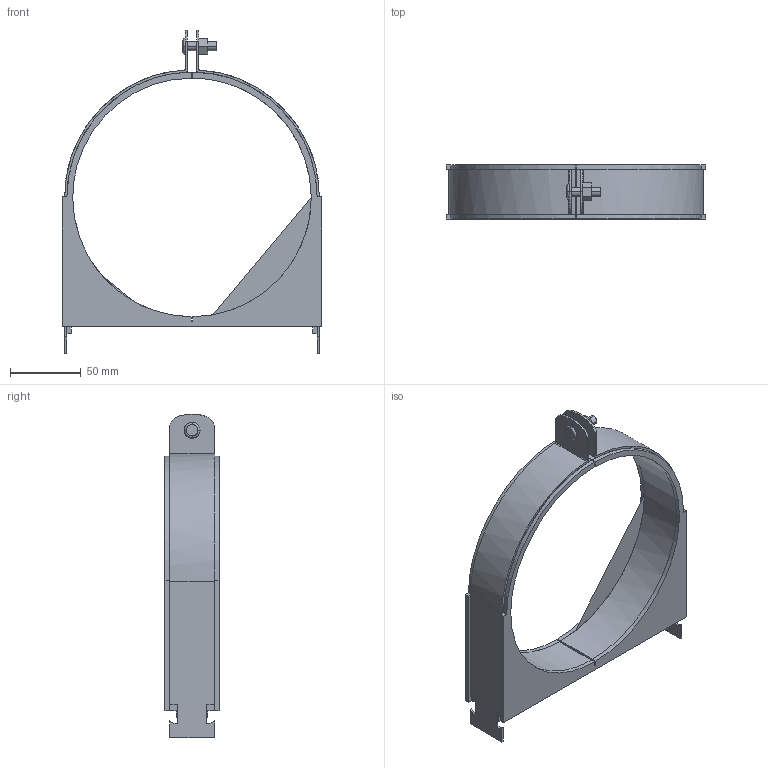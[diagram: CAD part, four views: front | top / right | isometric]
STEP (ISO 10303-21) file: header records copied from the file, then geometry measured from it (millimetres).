
FILE_DESCRIPTION(('TurboCAD Mac Pro'),'Build 980');
FILE_NAME('106N114.stp',' ',(''),(''),'ACIS Interop','IMSI','TurboCAD Mac Pro BY IMSI, INCORPORATED');
FILE_SCHEMA(('automotive_design'));
Length unit declared in the file: inch
Products named in the file (3): 1; 2; 3
Bounding box: 182.72 x 38.1 x 228.09 mm (x, y, z)
Volume: 265236.5 mm3; surface area: 96518.8 mm2
Topology: 3 solids, 3 shells, 150 faces, 396 edges, 256 vertices
Faces by surface type: plane 104, bspline 46
Entity records: 7236 total; most frequent: CARTESIAN_POINT 1777, ORIENTED_EDGE 792, DIRECTION 504, EDGE_CURVE 396, STYLED_ITEM 321, PRESENTATION_STYLE_ASSIGNMENT 321, COLOUR_RGB 321, LINE 282
